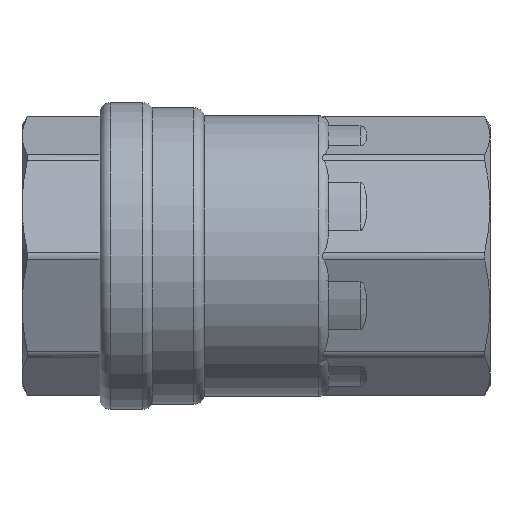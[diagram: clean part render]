
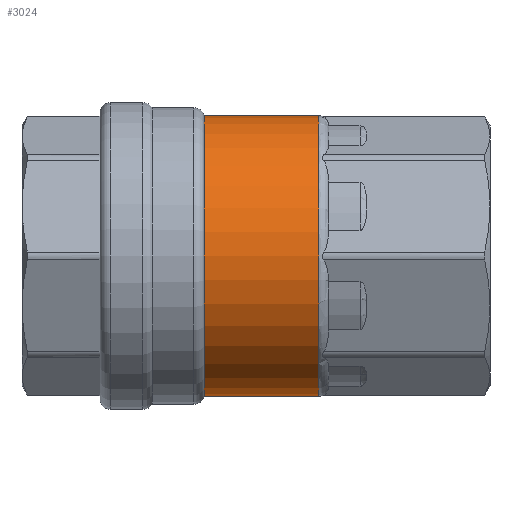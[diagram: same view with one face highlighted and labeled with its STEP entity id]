
A CAD part, front view. The second image highlights one B-rep face of the part: STEP entity #3024.
In plain terms, the highlighted cylindrical face has radius 27 mm (diameter 54 mm), a partial arc.
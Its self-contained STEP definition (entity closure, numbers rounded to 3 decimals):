
#51 = EDGE_CURVE ( 'NONE', #2883, #2862, #3478, .T. ) ;
#56 = EDGE_CURVE ( 'NONE', #2885, #2848, #3451, .T. ) ;
#61 = EDGE_CURVE ( 'NONE', #2885, #2883, #3436, .T. ) ;
#85 = EDGE_CURVE ( 'NONE', #2862, #2848, #3409, .T. ) ;
#495 = CARTESIAN_POINT ( 'NONE',  ( -10., 0., -27. ) ) ;
#498 = DIRECTION ( 'NONE',  ( 1., 0., 0. ) ) ;
#508 = CARTESIAN_POINT ( 'NONE',  ( -10., 0., 27. ) ) ;
#522 = DIRECTION ( 'NONE',  ( 1., 0., 0. ) ) ;
#534 = CARTESIAN_POINT ( 'NONE',  ( -10., 0., 0. ) ) ;
#536 = DIRECTION ( 'NONE',  ( 1., 0., 0. ) ) ;
#537 = DIRECTION ( 'NONE',  ( 0., 0., 1. ) ) ;
#681 = CARTESIAN_POINT ( 'NONE',  ( 12.064, 0., 0. ) ) ;
#709 = DIRECTION ( 'NONE',  ( -1., 0., 0. ) ) ;
#710 = DIRECTION ( 'NONE',  ( 0., 0., -1. ) ) ;
#1955 = CARTESIAN_POINT ( 'NONE',  ( 12.064, 0., 27. ) ) ;
#1969 = CARTESIAN_POINT ( 'NONE',  ( 12.064, 0., -27. ) ) ;
#1990 = CARTESIAN_POINT ( 'NONE',  ( -10., 0., -27. ) ) ;
#1992 = CARTESIAN_POINT ( 'NONE',  ( -10., 0., 27. ) ) ;
#2360 = DIRECTION ( 'NONE',  ( 0., 0., -1. ) ) ;
#2361 = DIRECTION ( 'NONE',  ( 1., 0., 0. ) ) ;
#2362 = CARTESIAN_POINT ( 'NONE',  ( -10., 0., 0. ) ) ;
#2848 = VERTEX_POINT ( 'NONE', #1955 ) ;
#2862 = VERTEX_POINT ( 'NONE', #1969 ) ;
#2883 = VERTEX_POINT ( 'NONE', #1990 ) ;
#2885 = VERTEX_POINT ( 'NONE', #1992 ) ;
#3024 = ADVANCED_FACE ( 'NONE', ( #4745 ), #4748, .T. ) ;
#3101 = AXIS2_PLACEMENT_3D ( 'NONE', #534, #536, #537 ) ;
#3115 = AXIS2_PLACEMENT_3D ( 'NONE', #681, #709, #710 ) ;
#3325 = AXIS2_PLACEMENT_3D ( 'NONE', #2362, #2361, #2360 ) ;
#3409 = CIRCLE ( 'NONE', #3115, 27. ) ;
#3436 = CIRCLE ( 'NONE', #3101, 27. ) ;
#3450 = VECTOR ( 'NONE', #522, 1000. ) ;
#3451 = LINE ( 'NONE', #508, #3450 ) ;
#3458 = VECTOR ( 'NONE', #498, 1000. ) ;
#3478 = LINE ( 'NONE', #495, #3458 ) ;
#3850 = EDGE_LOOP ( 'NONE', ( #4159, #4158, #4157, #4156 ) ) ;
#4156 = ORIENTED_EDGE ( 'NONE', *, *, #85, .T. ) ;
#4157 = ORIENTED_EDGE ( 'NONE', *, *, #51, .T. ) ;
#4158 = ORIENTED_EDGE ( 'NONE', *, *, #61, .T. ) ;
#4159 = ORIENTED_EDGE ( 'NONE', *, *, #56, .F. ) ;
#4745 = FACE_OUTER_BOUND ( 'NONE', #3850, .T. ) ;
#4748 = CYLINDRICAL_SURFACE ( 'NONE', #3325, 27. ) ;
